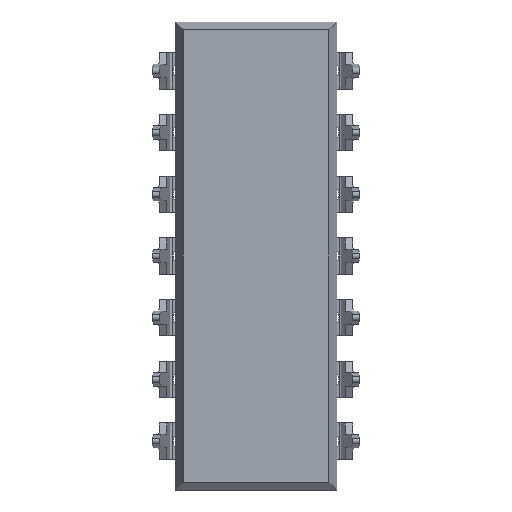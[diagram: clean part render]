
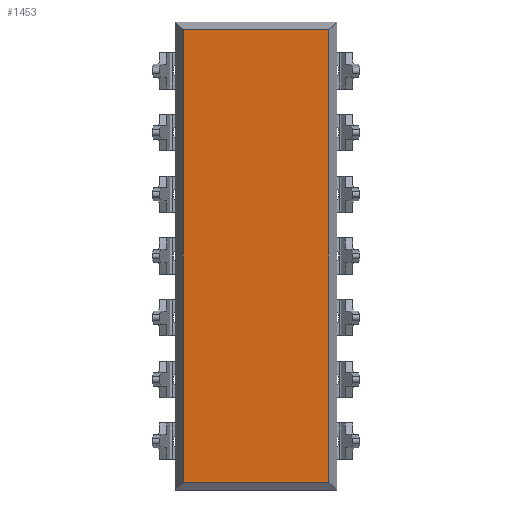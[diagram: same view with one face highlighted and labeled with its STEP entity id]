
A CAD part, front view. The second image highlights one B-rep face of the part: STEP entity #1453.
In plain terms, the highlighted planar face has unit normal (0, -1, 0).
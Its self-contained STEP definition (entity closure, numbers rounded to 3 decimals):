
#125 = LINE ( 'NONE', #8064, #9673 ) ;
#1453 = ADVANCED_FACE ( 'NONE', ( #23521 ), #5630, .F. ) ;
#1760 = VECTOR ( 'NONE', #4070, 1000. ) ;
#2515 = CARTESIAN_POINT ( 'NONE',  ( 2.997, 0., 19.26 ) ) ;
#3007 = CARTESIAN_POINT ( 'NONE',  ( 2.997, 0., 18.932 ) ) ;
#3671 = DIRECTION ( 'NONE',  ( 0., 0., 1. ) ) ;
#3774 = VERTEX_POINT ( 'NONE', #3007 ) ;
#4070 = DIRECTION ( 'NONE',  ( -1., 0., 0. ) ) ;
#4118 = CARTESIAN_POINT ( 'NONE',  ( -2.997, 0., 18.932 ) ) ;
#4614 = DIRECTION ( 'NONE',  ( 0., 0., -1. ) ) ;
#5630 = PLANE ( 'NONE',  #14778 ) ;
#5951 = EDGE_CURVE ( 'NONE', #3774, #23005, #20410, .T. ) ;
#6629 = EDGE_CURVE ( 'NONE', #19183, #11878, #14540, .T. ) ;
#8034 = CARTESIAN_POINT ( 'NONE',  ( -2.997, 0., 0.328 ) ) ;
#8064 = CARTESIAN_POINT ( 'NONE',  ( 3.325, 0., 0.328 ) ) ;
#9673 = VECTOR ( 'NONE', #16041, 1000. ) ;
#10469 = DIRECTION ( 'NONE',  ( 0., 0., -1. ) ) ;
#11156 = ORIENTED_EDGE ( 'NONE', *, *, #11607, .F. ) ;
#11607 = EDGE_CURVE ( 'NONE', #23005, #11878, #125, .T. ) ;
#11878 = VERTEX_POINT ( 'NONE', #8034 ) ;
#13590 = CARTESIAN_POINT ( 'NONE',  ( -2.997, 0., 19.26 ) ) ;
#13991 = LINE ( 'NONE', #21951, #1760 ) ;
#14540 = LINE ( 'NONE', #22503, #14960 ) ;
#14778 = AXIS2_PLACEMENT_3D ( 'NONE', #13590, #21566, #3671 ) ;
#14960 = VECTOR ( 'NONE', #4614, 1000. ) ;
#15686 = EDGE_CURVE ( 'NONE', #3774, #19183, #13991, .T. ) ;
#16041 = DIRECTION ( 'NONE',  ( -1., 0., 0. ) ) ;
#16252 = CARTESIAN_POINT ( 'NONE',  ( 2.997, 0., 0.328 ) ) ;
#18284 = ORIENTED_EDGE ( 'NONE', *, *, #15686, .T. ) ;
#19183 = VERTEX_POINT ( 'NONE', #4118 ) ;
#19527 = EDGE_LOOP ( 'NONE', ( #22054, #18284, #22731, #11156 ) ) ;
#20410 = LINE ( 'NONE', #2515, #24290 ) ;
#21566 = DIRECTION ( 'NONE',  ( 0., 1., 0. ) ) ;
#21951 = CARTESIAN_POINT ( 'NONE',  ( 3.325, 0., 18.932 ) ) ;
#22054 = ORIENTED_EDGE ( 'NONE', *, *, #5951, .F. ) ;
#22503 = CARTESIAN_POINT ( 'NONE',  ( -2.997, 0., 19.26 ) ) ;
#22731 = ORIENTED_EDGE ( 'NONE', *, *, #6629, .T. ) ;
#23005 = VERTEX_POINT ( 'NONE', #16252 ) ;
#23521 = FACE_OUTER_BOUND ( 'NONE', #19527, .T. ) ;
#24290 = VECTOR ( 'NONE', #10469, 1000. ) ;
